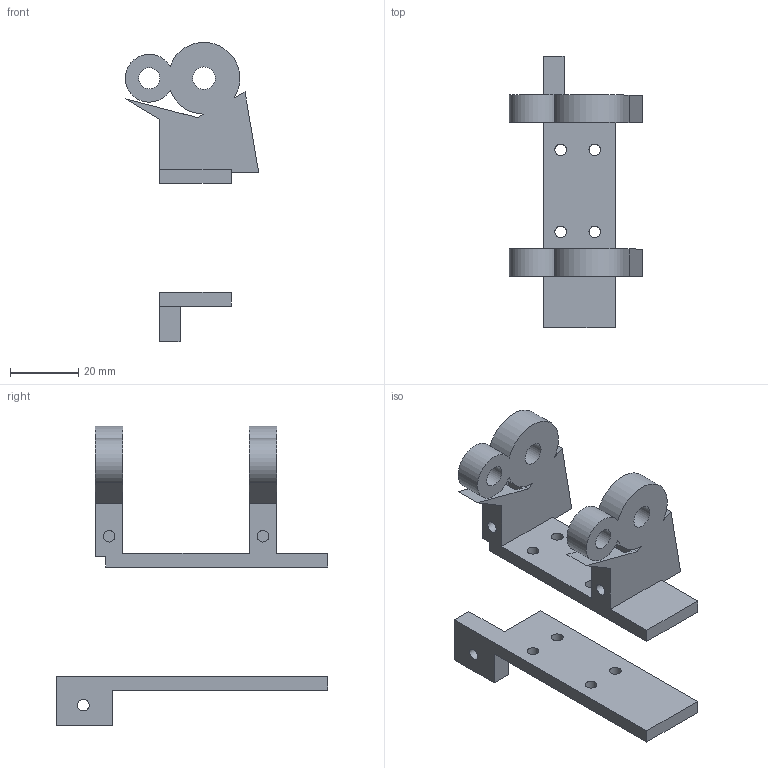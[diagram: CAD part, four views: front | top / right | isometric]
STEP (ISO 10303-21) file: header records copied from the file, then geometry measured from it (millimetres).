
FILE_DESCRIPTION(('Open CASCADE Model'),'2;1');
FILE_NAME('Open CASCADE Shape Model','2026-10-16T02:10:56',('Author'),( 'Open CASCADE'),'Open CASCADE STEP processor 7.9','Open CASCADE 7.9' ,'Unknown');
FILE_SCHEMA(('AUTOMOTIVE_DESIGN { 1 0 10303 214 1 1 1 1 }'));
Length unit declared in the file: millimetre
Products named in the file (3): Open CASCADE STEP translator 7.9 10; Open CASCADE STEP translator 7.9 10.1; Open CASCADE STEP translator 7.9 10.2
Assembly tree (2 placements, depth 2):
  Open CASCADE STEP translator 7.9 10
    Open CASCADE STEP translator 7.9 10.1
    Open CASCADE STEP translator 7.9 10.2
Bounding box: 39 x 79.5 x 87.49 mm (x, y, z)
Volume: 26380.5 mm3; surface area: 15362.4 mm2
Topology: 2 solids, 2 shells, 76 faces, 198 edges, 132 vertices
Faces by surface type: plane 53, cylinder 23
Full cylindrical faces by diameter (mm): 3.4 x13, 6.2 x2, 6.6 x2
Entity records: 5054 total; most frequent: CARTESIAN_POINT 1085, DIRECTION 702, LINE 430, VECTOR 430, ORIENTED_EDGE 396, PCURVE 396, DEFINITIONAL_REPRESENTATION 396, EDGE_CURVE 198
